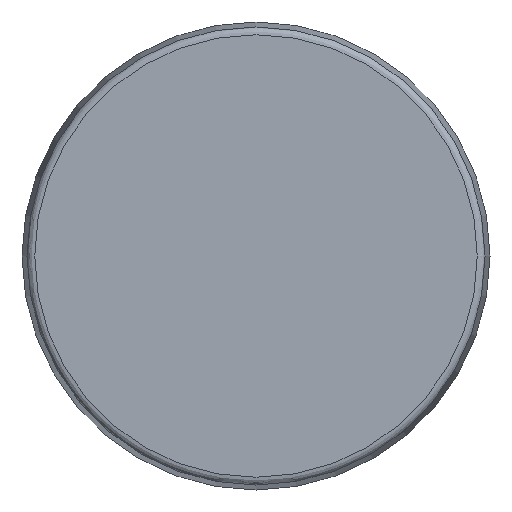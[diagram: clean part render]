
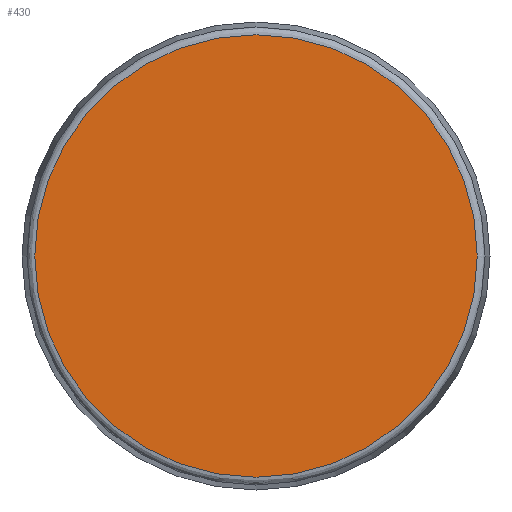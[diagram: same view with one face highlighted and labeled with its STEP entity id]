
A CAD part, front view. The second image highlights one B-rep face of the part: STEP entity #430.
In plain terms, the highlighted planar face has unit normal (0, -1, 0).
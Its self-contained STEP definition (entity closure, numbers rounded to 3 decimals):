
#308=CARTESIAN_POINT('',(1330.92,970.852,0.0));
#309=VERTEX_POINT('',#308);
#336=CARTESIAN_POINT('',(1274.185,970.852,0.0));
#337=VERTEX_POINT('',#336);
#338=CARTESIAN_POINT('',(1302.553,970.852,0.0));
#339=DIRECTION('',(0.,-1.0,0.0));
#340=DIRECTION('',(1.0,0.,0.0));
#341=AXIS2_PLACEMENT_3D('',#338,#339,#340);
#342=CIRCLE('',#341,28.367);
#343=EDGE_CURVE('',#337,#309,#342,.T.);
#345=CARTESIAN_POINT('',(1302.553,970.852,0.0));
#346=DIRECTION('',(0.,-1.0,0.0));
#347=DIRECTION('',(1.0,0.,0.0));
#348=AXIS2_PLACEMENT_3D('',#345,#346,#347);
#349=CIRCLE('',#348,28.367);
#350=EDGE_CURVE('',#309,#337,#349,.T.);
#421=CARTESIAN_POINT('',(1245.818,970.852,-56.734));
#422=DIRECTION('',(0.0,1.0,0.0));
#423=DIRECTION('',(0.0,0.0,1.0));
#424=AXIS2_PLACEMENT_3D('',#421,#422,#423);
#425=PLANE('',#424);
#426=ORIENTED_EDGE('',*,*,#350,.T.);
#427=ORIENTED_EDGE('',*,*,#343,.T.);
#428=EDGE_LOOP('',(#426,#427));
#429=FACE_OUTER_BOUND('',#428,.T.);
#430=ADVANCED_FACE('',(#429),#425,.F.);
